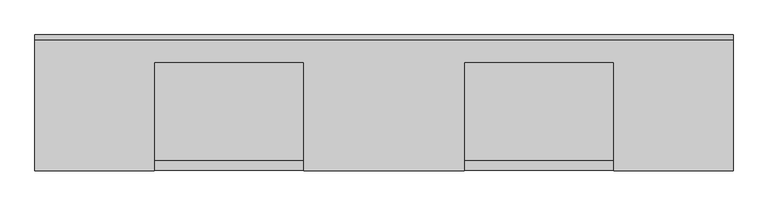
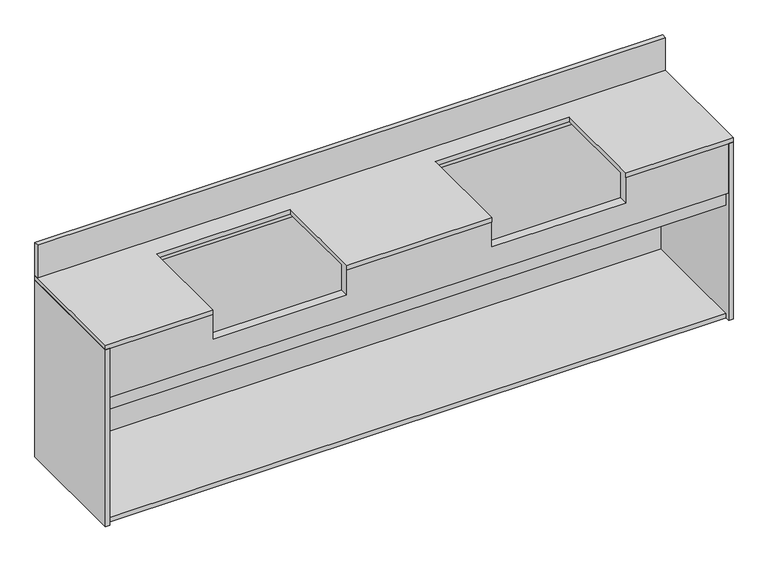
"""IFC4 building model written with IfcOpenShell, lengths in millimetres: furniture geometry, Vanity-Compact Laminate-Duracube-Cabinet Semi Recessed Basin 350 : Basins with Splashback."""

from ifc_helpers import new_model, si_unit, frame, origin, place, context, project, spatial, polyline, outline, extrude, faceted_brep, source, transform, mapped, element, save


def furniture_ad4c9fa9(model_context):
    return source(origin(), model_context, "Body", "SolidModel", [
        extrude(outline(polyline([(1787.0, -13.0), (1787.0, -63.0), (13.0, -63.0), (13.0, -13.0), (1787.0, -13.0)])), frame((0.0, 0.0, 821.0), z_axis=(0.0, 0.0, 1.0), x_axis=(1.0, 0.0, 0.0)), (0.0, 0.0, 1.0), 16.0),
        extrude(outline(polyline([(1787.0, -13.0), (1787.0, -337.0), (13.0, -337.0), (13.0, -13.0), (1787.0, -13.0)])), frame((0.0, 0.0, 300.0), z_axis=(0.0, 0.0, 1.0), x_axis=(1.0, 0.0, 0.0)), (0.0, 0.0, 1.0), 13.0),
        extrude(outline(polyline([(1787.0, 0.0), (1787.0, -13.0), (13.0, -13.0), (13.0, 0.0), (1787.0, 0.0)])), frame((0.0, 0.0, 300.0), z_axis=(0.0, 0.0, 1.0), x_axis=(1.0, 0.0, 0.0)), (0.0, 0.0, 1.0), 537.0),
        extrude(outline(polyline([(1800.0, 0.0), (1800.0, -350.0), (1787.0, -350.0), (1787.0, 0.0), (1800.0, 0.0)])), frame((0.0, 0.0, 300.0), z_axis=(0.0, 0.0, 1.0), x_axis=(1.0, 0.0, 0.0)), (0.0, 0.0, 1.0), 537.0),
        extrude(outline(polyline([(13.0, 0.0), (13.0, -350.0), (0.0, -350.0), (0.0, 0.0), (13.0, 0.0)])), frame((0.0, 0.0, 300.0), z_axis=(0.0, 0.0, 1.0), x_axis=(1.0, 0.0, 0.0)), (0.0, 0.0, 1.0), 537.0),
        faceted_brep([(1800.0, -350.0, 850.0), (1800.0, 0.0, 850.0), (0.0, 0.0, 850.0), (0.0, -350.0, 850.0), (307.5, -350.0, 850.0), (307.5, -70.0, 850.0), (692.5, -70.0, 850.0), (692.5, -350.0, 850.0), (1107.5, -350.0, 850.0), (1107.5, -70.0, 850.0), (1492.5, -70.0, 850.0), (1492.5, -350.0, 850.0), (1787.0, -337.0, 642.0), (13.0, -337.0, 642.0), (13.0, -324.0, 642.0), (1787.0, -324.0, 642.0), (1492.5, -350.0, 837.0), (1800.0, -350.0, 837.0), (0.0, -350.0, 837.0), (307.5, -350.0, 837.0), (692.5, -350.0, 837.0), (1107.5, -350.0, 837.0), (1800.0, 0.0, 837.0), (0.0, 0.0, 837.0), (1107.5, -349.5, 760.0), (1492.5, -349.5, 760.0), (1492.5, -324.0, 760.0), (1107.5, -324.0, 760.0), (1107.5, -70.0, 837.0), (1492.5, -70.0, 837.0), (1107.5, -349.5, 837.0), (1107.5, -324.0, 837.0), (1492.5, -324.0, 837.0), (1492.5, -349.5, 837.0), (1787.0, -349.5, 837.0), (1787.0, -324.0, 837.0), (692.5, -324.0, 837.0), (692.5, -70.0, 837.0), (307.5, -70.0, 837.0), (307.5, -324.0, 837.0), (13.0, -324.0, 837.0), (13.0, -349.5, 837.0), (307.5, -349.5, 837.0), (692.5, -349.5, 837.0), (13.0, -337.0, 687.0), (13.0, -349.5, 687.0), (1787.0, -349.5, 687.0), (1787.0, -337.0, 687.0), (307.5, -324.0, 760.0), (692.5, -324.0, 760.0), (692.5, -349.5, 760.0), (307.5, -349.5, 760.0)], [[[0, 1, 2, 3, 4, 5, 6, 7, 8, 9, 10, 11]], [[12, 13, 14, 15]], [[0, 11, 16, 17]], [[4, 3, 18, 19]], [[8, 7, 20, 21]], [[1, 0, 17, 22]], [[2, 1, 22, 23]], [[3, 2, 23, 18]], [[24, 25, 26, 27]], [[10, 9, 28, 29]], [[9, 8, 21, 30, 24, 27, 31, 28]], [[11, 10, 29, 32, 26, 25, 33, 16]], [[22, 17, 16, 33, 34, 35, 32, 29, 28, 31, 36, 37, 38, 39, 40, 41, 42, 19, 18, 23]], [[43, 30, 21, 20]], [[44, 45, 41, 40, 14, 13]], [[46, 47, 12, 15, 35, 34]], [[46, 45, 44, 47]], [[47, 44, 13, 12]], [[32, 35, 15, 14, 40, 39, 48, 49, 36, 31, 27, 26]], [[45, 46, 34, 33, 25, 24, 30, 43, 50, 51, 42, 41]], [[51, 50, 49, 48]], [[6, 5, 38, 37]], [[5, 4, 19, 42, 51, 48, 39, 38]], [[7, 6, 37, 36, 49, 50, 43, 20]]]),
        extrude(outline(polyline([(1800.0, 0.0), (1800.0, -13.0), (0.0, -13.0), (0.0, 0.0), (1800.0, 0.0)])), frame((0.0, 0.0, 850.0), z_axis=(0.0, 0.0, 1.0), x_axis=(1.0, 0.0, 0.0)), (0.0, 0.0, 1.0), 100.0),
    ])


if __name__ == "__main__":
    model = new_model("IFC4")
    model_context = context("Model", 3, world=origin())
    ifc_project = project(units=[si_unit("LENGTHUNIT", "METRE", prefix="MILLI")], contexts=[model_context])
    site = spatial("IfcSite", under=ifc_project)
    building = spatial("IfcBuilding", under=site)
    placement = place(None, origin())
    furniture_shape = furniture_ad4c9fa9(model_context)
    element("IfcFurniture", 1, ObjectType="Vanity-Compact Laminate-Duracube-Cabinet Semi Recessed Basin 350 : Basins with Splashback", at=placement, inside=building, context=model_context, shape_type="MappedRepresentation", body=[
        mapped(furniture_shape, transform((0.0, 0.0, 0.0), x_axis=(1.0, 0.0, 0.0), y_axis=(0.0, 1.0, 0.0), z_axis=(0.0, 0.0, 1.0))),
    ])
    save(model, "model.ifc")
